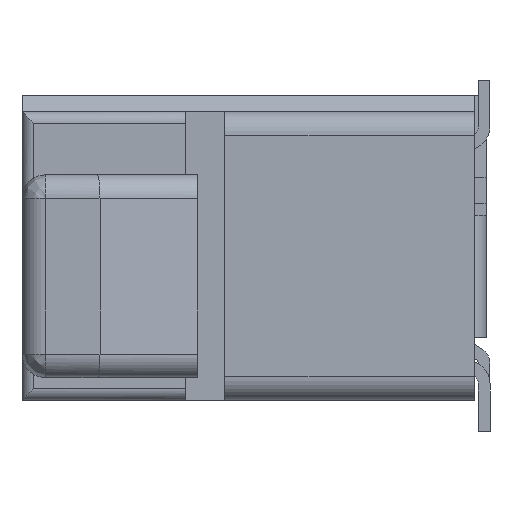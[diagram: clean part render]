
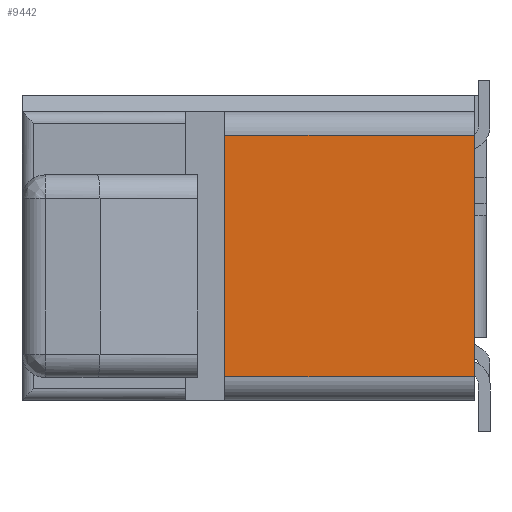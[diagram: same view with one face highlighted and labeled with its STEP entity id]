
A CAD part, left-side view. The second image highlights one B-rep face of the part: STEP entity #9442.
In plain terms, the highlighted planar face has unit normal (-1, 0, 0).
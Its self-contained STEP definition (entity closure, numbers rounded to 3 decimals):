
#311 = CARTESIAN_POINT ( 'NONE',  ( -14.99, 3.4, 1.21 ) ) ;
#314 = LINE ( 'NONE', #311, #19949 ) ;
#318 = DIRECTION ( 'NONE',  ( 0., 0., -1. ) ) ;
#1235 = EDGE_CURVE ( 'NONE', #17983, #18032, #16641, .T. ) ;
#1236 = EDGE_CURVE ( 'NONE', #18032, #18031, #16634, .T. ) ;
#1237 = EDGE_CURVE ( 'NONE', #18031, #17977, #16620, .T. ) ;
#2965 = EDGE_LOOP ( 'NONE', ( #17694, #17338, #18048, #18059 ) ) ;
#5838 = FACE_OUTER_BOUND ( 'NONE', #2965, .T. ) ;
#5841 = CARTESIAN_POINT ( 'NONE',  ( -14.99, 3.4, 1.21 ) ) ;
#5844 = PLANE ( 'NONE',  #20159 ) ;
#5846 = DIRECTION ( 'NONE',  ( -1., 0., 0. ) ) ;
#5847 = DIRECTION ( 'NONE',  ( 0., 0., 1. ) ) ;
#8329 = CARTESIAN_POINT ( 'NONE',  ( -14.99, 3.4, 1.21 ) ) ;
#8330 = CARTESIAN_POINT ( 'NONE',  ( -14.99, 3.4, -1.89 ) ) ;
#8368 = CARTESIAN_POINT ( 'NONE',  ( -14.99, 0.2, -1.89 ) ) ;
#8369 = CARTESIAN_POINT ( 'NONE',  ( -14.99, 0.2, 1.21 ) ) ;
#9442 = ADVANCED_FACE ( 'NONE', ( #5838 ), #5844, .T. ) ;
#9576 = EDGE_CURVE ( 'NONE', #17983, #17977, #314, .T. ) ;
#16618 = DIRECTION ( 'NONE',  ( 0., 1., 0. ) ) ;
#16619 = CARTESIAN_POINT ( 'NONE',  ( -14.99, 3.4, -1.89 ) ) ;
#16620 = LINE ( 'NONE', #16619, #20438 ) ;
#16623 = DIRECTION ( 'NONE',  ( 0., 0., -1. ) ) ;
#16624 = CARTESIAN_POINT ( 'NONE',  ( -14.99, 0.2, 1.21 ) ) ;
#16627 = DIRECTION ( 'NONE',  ( 0., -1., 0. ) ) ;
#16634 = LINE ( 'NONE', #16624, #20444 ) ;
#16641 = LINE ( 'NONE', #16643, #20442 ) ;
#16643 = CARTESIAN_POINT ( 'NONE',  ( -14.99, 3.4, 1.21 ) ) ;
#17338 = ORIENTED_EDGE ( 'NONE', *, *, #1236, .F. ) ;
#17694 = ORIENTED_EDGE ( 'NONE', *, *, #1237, .F. ) ;
#17977 = VERTEX_POINT ( 'NONE', #8330 ) ;
#17983 = VERTEX_POINT ( 'NONE', #8329 ) ;
#18031 = VERTEX_POINT ( 'NONE', #8368 ) ;
#18032 = VERTEX_POINT ( 'NONE', #8369 ) ;
#18048 = ORIENTED_EDGE ( 'NONE', *, *, #1235, .F. ) ;
#18059 = ORIENTED_EDGE ( 'NONE', *, *, #9576, .T. ) ;
#19949 = VECTOR ( 'NONE', #318, 1000. ) ;
#20159 = AXIS2_PLACEMENT_3D ( 'NONE', #5841, #5846, #5847 ) ;
#20438 = VECTOR ( 'NONE', #16618, 1000. ) ;
#20442 = VECTOR ( 'NONE', #16627, 1000. ) ;
#20444 = VECTOR ( 'NONE', #16623, 1000. ) ;
